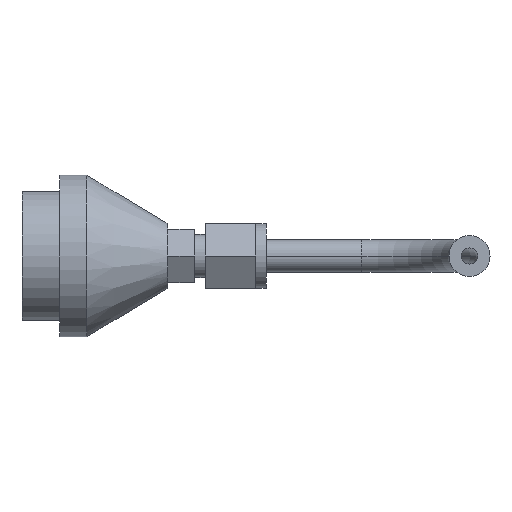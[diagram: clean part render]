
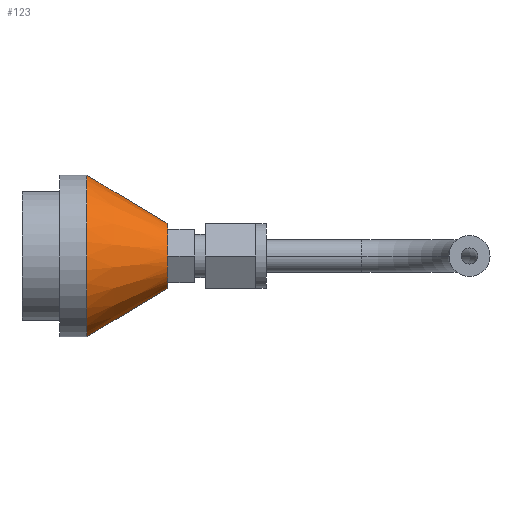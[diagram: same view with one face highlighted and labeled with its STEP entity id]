
A CAD part, front view. The second image highlights one B-rep face of the part: STEP entity #123.
In plain terms, the highlighted conical face has half-angle 30.964 degrees and reference radius 6 mm.
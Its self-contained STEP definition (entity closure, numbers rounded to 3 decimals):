
#47 = EDGE_CURVE ( 'NONE', #193, #200, #915, .T. ) ;
#51 = EDGE_CURVE ( 'NONE', #192, #527, #907, .T. ) ;
#117 = ORIENTED_EDGE ( 'NONE', *, *, #51, .T. ) ;
#118 = ORIENTED_EDGE ( 'NONE', *, *, #158, .T. ) ;
#121 = ORIENTED_EDGE ( 'NONE', *, *, #47, .F. ) ;
#122 = EDGE_LOOP ( 'NONE', ( #121, #118, #117, #829 ) ) ;
#123 = ADVANCED_FACE ( 'NONE', ( #1000 ), #999, .T. ) ;
#158 = EDGE_CURVE ( 'NONE', #193, #192, #1070, .T. ) ;
#192 = VERTEX_POINT ( 'NONE', #1132 ) ;
#193 = VERTEX_POINT ( 'NONE', #1131 ) ;
#200 = VERTEX_POINT ( 'NONE', #1187 ) ;
#527 = VERTEX_POINT ( 'NONE', #1942 ) ;
#827 = EDGE_CURVE ( 'NONE', #200, #527, #2322, .T. ) ;
#829 = ORIENTED_EDGE ( 'NONE', *, *, #827, .F. ) ;
#904 = DIRECTION ( 'NONE',  ( -0.857, 0., 0.514 ) ) ;
#905 = VECTOR ( 'NONE', #904, 1000. ) ;
#906 = CARTESIAN_POINT ( 'NONE',  ( 27., 0., 6. ) ) ;
#907 = LINE ( 'NONE', #906, #905 ) ;
#912 = DIRECTION ( 'NONE',  ( -0.857, 0., -0.514 ) ) ;
#913 = VECTOR ( 'NONE', #912, 1000. ) ;
#914 = CARTESIAN_POINT ( 'NONE',  ( 27., 0., -6. ) ) ;
#915 = LINE ( 'NONE', #914, #913 ) ;
#997 = CARTESIAN_POINT ( 'NONE',  ( 27., 0., 0. ) ) ;
#999 = CONICAL_SURFACE ( 'NONE', #1062, 6., 0.54 ) ;
#1000 = FACE_OUTER_BOUND ( 'NONE', #122, .T. ) ;
#1060 = DIRECTION ( 'NONE',  ( 0., 0., 1. ) ) ;
#1061 = DIRECTION ( 'NONE',  ( -1., 0., 0. ) ) ;
#1062 = AXIS2_PLACEMENT_3D ( 'NONE', #997, #1061, #1060 ) ;
#1066 = DIRECTION ( 'NONE',  ( 0., 0., 1. ) ) ;
#1067 = DIRECTION ( 'NONE',  ( -1., 0., 0. ) ) ;
#1068 = CARTESIAN_POINT ( 'NONE',  ( 27., 0., 0. ) ) ;
#1069 = AXIS2_PLACEMENT_3D ( 'NONE', #1068, #1067, #1066 ) ;
#1070 = CIRCLE ( 'NONE', #1069, 6. ) ;
#1131 = CARTESIAN_POINT ( 'NONE',  ( 27., 0., -6. ) ) ;
#1132 = CARTESIAN_POINT ( 'NONE',  ( 27., 0., 6. ) ) ;
#1187 = CARTESIAN_POINT ( 'NONE',  ( 12., 0., -15. ) ) ;
#1942 = CARTESIAN_POINT ( 'NONE',  ( 12., 0., 15. ) ) ;
#2318 = DIRECTION ( 'NONE',  ( 0., 0., 1. ) ) ;
#2319 = DIRECTION ( 'NONE',  ( -1., 0., 0. ) ) ;
#2320 = CARTESIAN_POINT ( 'NONE',  ( 12., 0., 0. ) ) ;
#2321 = AXIS2_PLACEMENT_3D ( 'NONE', #2320, #2319, #2318 ) ;
#2322 = CIRCLE ( 'NONE', #2321, 15. ) ;
